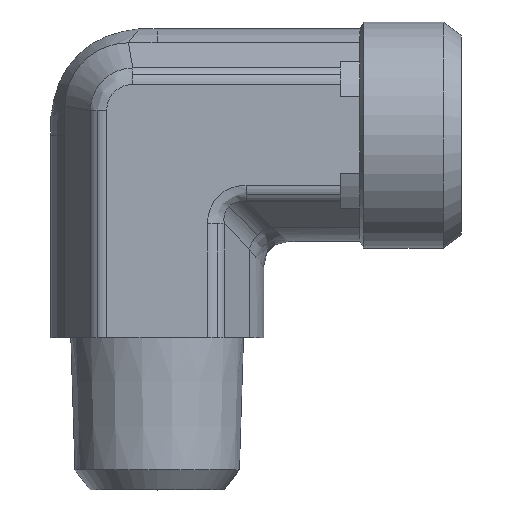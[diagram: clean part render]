
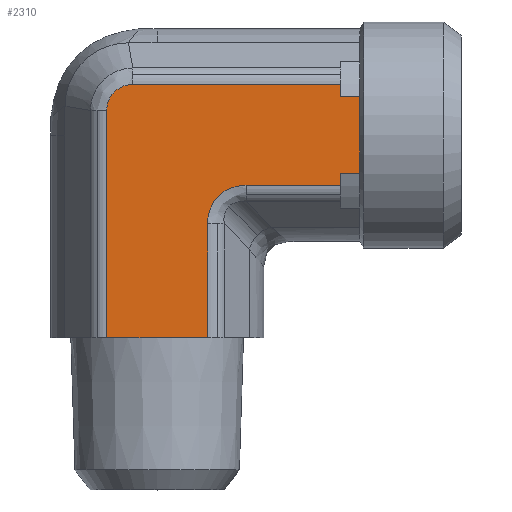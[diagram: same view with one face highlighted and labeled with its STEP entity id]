
A CAD part, top view. The second image highlights one B-rep face of the part: STEP entity #2310.
In plain terms, the highlighted planar face has unit normal (0, 0, 1) as drawn and (0, -1, 0) by its records, which use the part's own axes.
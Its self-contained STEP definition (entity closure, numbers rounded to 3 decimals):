
#361=CARTESIAN_POINT('',(2.515,-8.4,3.984));
#362=VERTEX_POINT('',#361);
#370=CARTESIAN_POINT('',(11.5,-8.4,3.984));
#371=VERTEX_POINT('',#370);
#372=CARTESIAN_POINT('',(2.515,-8.4,3.984));
#373=DIRECTION('',(1.0,0.0,0.0));
#374=VECTOR('',#373,8.985);
#375=LINE('',#372,#374);
#376=EDGE_CURVE('',#362,#371,#375,.T.);
#485=CARTESIAN_POINT('',(-8.484,-8.4,-1.926));
#486=VERTEX_POINT('',#485);
#494=CARTESIAN_POINT('',(-8.484,-8.4,14.5));
#495=VERTEX_POINT('',#494);
#496=CARTESIAN_POINT('',(-8.484,-8.4,-1.926));
#497=DIRECTION('',(0.0,0.0,1.0));
#498=VECTOR('',#497,16.426);
#499=LINE('',#496,#498);
#500=EDGE_CURVE('',#486,#495,#499,.T.);
#1788=CARTESIAN_POINT('',(-0.516,-8.4,14.5));
#1789=VERTEX_POINT('',#1788);
#1790=CARTESIAN_POINT('',(-1.484,-8.4,14.5));
#1791=VERTEX_POINT('',#1790);
#1792=CARTESIAN_POINT('',(-0.516,-8.4,14.5));
#1793=DIRECTION('',(-1.0,0.0,0.0));
#1794=VECTOR('',#1793,0.968);
#1795=LINE('',#1792,#1794);
#1796=EDGE_CURVE('',#1789,#1791,#1795,.T.);
#1847=CARTESIAN_POINT('',(-7.516,-8.4,14.5));
#1848=VERTEX_POINT('',#1847);
#1849=CARTESIAN_POINT('',(-7.516,-8.4,14.5));
#1850=DIRECTION('',(-1.0,0.0,0.0));
#1851=VECTOR('',#1850,0.968);
#1852=LINE('',#1849,#1851);
#1853=EDGE_CURVE('',#1848,#495,#1852,.T.);
#1952=CARTESIAN_POINT('',(-1.484,-8.4,16.0));
#1953=VERTEX_POINT('',#1952);
#1954=CARTESIAN_POINT('',(-1.484,-8.4,14.5));
#1955=DIRECTION('',(0.0,0.0,1.0));
#1956=VECTOR('',#1955,1.5);
#1957=LINE('',#1954,#1956);
#1958=EDGE_CURVE('',#1791,#1953,#1957,.T.);
#1993=CARTESIAN_POINT('',(-7.516,-8.4,16.0));
#1994=VERTEX_POINT('',#1993);
#1995=CARTESIAN_POINT('',(-7.516,-8.4,16.0));
#1996=DIRECTION('',(0.0,0.0,-1.0));
#1997=VECTOR('',#1996,1.5);
#1998=LINE('',#1995,#1997);
#1999=EDGE_CURVE('',#1994,#1848,#1998,.T.);
#2222=CARTESIAN_POINT('',(-4.5,-8.4,16.0));
#2223=VERTEX_POINT('',#2222);
#2224=CARTESIAN_POINT('',(-4.5,-8.4,16.0));
#2225=DIRECTION('',(-1.0,0.0,0.0));
#2226=VECTOR('',#2225,3.016);
#2227=LINE('',#2224,#2226);
#2228=EDGE_CURVE('',#2223,#1994,#2227,.T.);
#2246=CARTESIAN_POINT('',(-4.5,-8.4,-3.175));
#2247=DIRECTION('',(0.0,-1.0,0.0));
#2248=DIRECTION('',(0.0,0.0,-1.0));
#2249=AXIS2_PLACEMENT_3D('',#2246,#2247,#2248);
#2250=PLANE('',#2249);
#2251=ORIENTED_EDGE('',*,*,#1999,.T.);
#2252=ORIENTED_EDGE('',*,*,#1853,.T.);
#2253=ORIENTED_EDGE('',*,*,#500,.F.);
#2254=CARTESIAN_POINT('',(-6.426,-8.4,-3.984));
#2255=VERTEX_POINT('',#2254);
#2256=CARTESIAN_POINT('',(-8.484,-8.4,-1.926));
#2257=CARTESIAN_POINT('',(-8.484,-8.4,-2.06));
#2258=CARTESIAN_POINT('',(-8.47,-8.4,-2.195));
#2259=CARTESIAN_POINT('',(-8.402,-8.4,-2.54));
#2260=CARTESIAN_POINT('',(-8.326,-8.4,-2.743));
#2261=CARTESIAN_POINT('',(-8.051,-8.4,-3.233));
#2262=CARTESIAN_POINT('',(-7.806,-8.4,-3.49));
#2263=CARTESIAN_POINT('',(-7.186,-8.4,-3.876));
#2264=CARTESIAN_POINT('',(-6.806,-8.4,-3.984));
#2265=CARTESIAN_POINT('',(-6.426,-8.4,-3.984));
#2266=B_SPLINE_CURVE_WITH_KNOTS('',3,(#2256,#2257,#2258,#2259,#2260,#2261,#2262,#2263,#2264,#2265),.UNSPECIFIED.,.F.,.U.,(4,2,2,2,4),(-3.216,-2.814,-2.171,-1.142,0.0),.UNSPECIFIED.);
#2267=EDGE_CURVE('',#2255,#486,#2266,.F.);
#2268=ORIENTED_EDGE('',*,*,#2267,.F.);
#2269=CARTESIAN_POINT('',(11.5,-8.4,-3.984));
#2270=VERTEX_POINT('',#2269);
#2271=CARTESIAN_POINT('',(11.5,-8.4,-3.984));
#2272=DIRECTION('',(-1.0,0.0,0.0));
#2273=VECTOR('',#2272,17.926);
#2274=LINE('',#2271,#2273);
#2275=EDGE_CURVE('',#2270,#2255,#2274,.T.);
#2276=ORIENTED_EDGE('',*,*,#2275,.F.);
#2277=CARTESIAN_POINT('',(11.5,-8.4,-3.984));
#2278=DIRECTION('',(0.0,0.0,1.0));
#2279=VECTOR('',#2278,7.967);
#2280=LINE('',#2277,#2279);
#2281=EDGE_CURVE('',#2270,#371,#2280,.T.);
#2282=ORIENTED_EDGE('',*,*,#2281,.T.);
#2283=ORIENTED_EDGE('',*,*,#376,.F.);
#2284=CARTESIAN_POINT('',(-0.516,-8.4,7.015));
#2285=VERTEX_POINT('',#2284);
#2286=CARTESIAN_POINT('',(3.525,-8.4,8.025));
#2287=DIRECTION('',(0.,-1.,0.));
#2288=DIRECTION('',(-0.707,0.,-0.707));
#2289=AXIS2_PLACEMENT_3D('',#2286,#2287,#2288);
#2290=ELLIPSE('',#2289,4.518,3.5);
#2291=EDGE_CURVE('',#2285,#362,#2290,.T.);
#2292=ORIENTED_EDGE('',*,*,#2291,.F.);
#2293=CARTESIAN_POINT('',(-0.516,-8.4,14.5));
#2294=DIRECTION('',(0.0,0.0,-1.0));
#2295=VECTOR('',#2294,7.485);
#2296=LINE('',#2293,#2295);
#2297=EDGE_CURVE('',#1789,#2285,#2296,.T.);
#2298=ORIENTED_EDGE('',*,*,#2297,.F.);
#2299=ORIENTED_EDGE('',*,*,#1796,.T.);
#2300=ORIENTED_EDGE('',*,*,#1958,.T.);
#2301=CARTESIAN_POINT('',(-1.484,-8.4,16.0));
#2302=DIRECTION('',(-1.0,0.0,0.0));
#2303=VECTOR('',#2302,3.016);
#2304=LINE('',#2301,#2303);
#2305=EDGE_CURVE('',#1953,#2223,#2304,.T.);
#2306=ORIENTED_EDGE('',*,*,#2305,.T.);
#2307=ORIENTED_EDGE('',*,*,#2228,.T.);
#2308=EDGE_LOOP('',(#2251,#2252,#2253,#2268,#2276,#2282,#2283,#2292,#2298,#2299,#2300,#2306,#2307));
#2309=FACE_OUTER_BOUND('',#2308,.T.);
#2310=ADVANCED_FACE('',(#2309),#2250,.T.);
